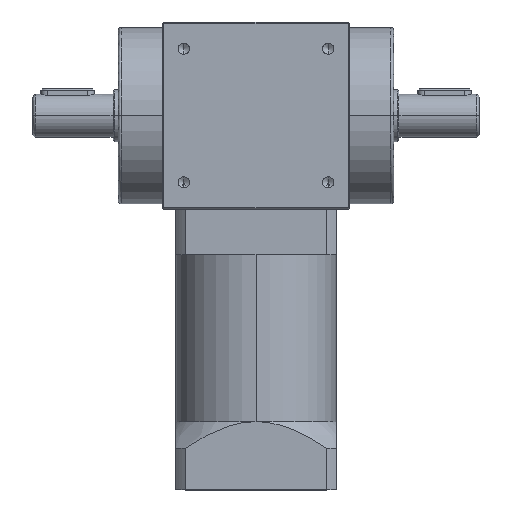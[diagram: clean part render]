
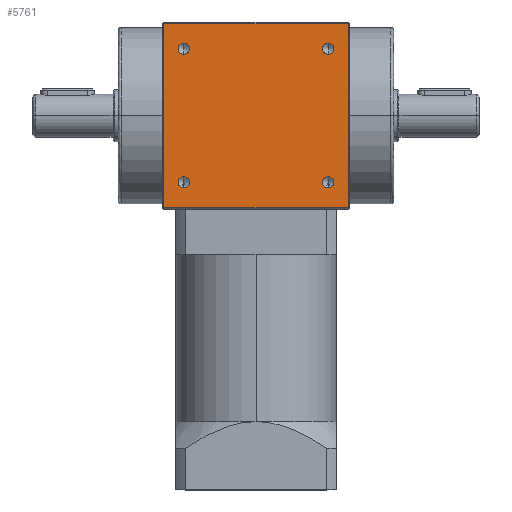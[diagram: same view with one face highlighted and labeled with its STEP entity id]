
A CAD part, top view. The second image highlights one B-rep face of the part: STEP entity #5761.
In plain terms, the highlighted planar face has unit normal (0, 0, 1).
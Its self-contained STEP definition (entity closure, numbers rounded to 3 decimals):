
#47 = CIRCLE ( 'NONE', #3463, 2.1 ) ;
#81 = VERTEX_POINT ( 'NONE', #1172 ) ;
#126 = AXIS2_PLACEMENT_3D ( 'NONE', #8744, #4515, #253 ) ;
#127 = DIRECTION ( 'NONE',  ( 0., 0., -1. ) ) ;
#184 = EDGE_LOOP ( 'NONE', ( #8799, #3134 ) ) ;
#205 = CARTESIAN_POINT ( 'NONE',  ( 27., 25., 35. ) ) ;
#253 = DIRECTION ( 'NONE',  ( 0., -1., 0. ) ) ;
#666 = LINE ( 'NONE', #1126, #6526 ) ;
#774 = FACE_BOUND ( 'NONE', #1692, .T. ) ;
#907 = AXIS2_PLACEMENT_3D ( 'NONE', #2643, #7632, #3363 ) ;
#913 = DIRECTION ( 'NONE',  ( 0., -1., 0. ) ) ;
#989 = FACE_BOUND ( 'NONE', #184, .T. ) ;
#1126 = CARTESIAN_POINT ( 'NONE',  ( 34.5, 0., 35. ) ) ;
#1172 = CARTESIAN_POINT ( 'NONE',  ( -27., 27.1, 35. ) ) ;
#1206 = VERTEX_POINT ( 'NONE', #3958 ) ;
#1383 = DIRECTION ( 'NONE',  ( 0., 0., 1. ) ) ;
#1465 = DIRECTION ( 'NONE',  ( 0., 0., -1. ) ) ;
#1482 = CIRCLE ( 'NONE', #3029, 2.1 ) ;
#1598 = EDGE_LOOP ( 'NONE', ( #9054, #6987 ) ) ;
#1692 = EDGE_LOOP ( 'NONE', ( #5704, #2667 ) ) ;
#1873 = AXIS2_PLACEMENT_3D ( 'NONE', #5637, #1383, #6344 ) ;
#1903 = DIRECTION ( 'NONE',  ( -1., 0., 0. ) ) ;
#1992 = CIRCLE ( 'NONE', #907, 2.1 ) ;
#2111 = VERTEX_POINT ( 'NONE', #3402 ) ;
#2163 = CARTESIAN_POINT ( 'NONE',  ( 27., 22.9, 35. ) ) ;
#2195 = LINE ( 'NONE', #3304, #7676 ) ;
#2230 = CARTESIAN_POINT ( 'NONE',  ( -34.5, -34.5, 35. ) ) ;
#2529 = DIRECTION ( 'NONE',  ( 0., 0., 1. ) ) ;
#2621 = FACE_BOUND ( 'NONE', #2932, .T. ) ;
#2622 = ORIENTED_EDGE ( 'NONE', *, *, #5671, .F. ) ;
#2643 = CARTESIAN_POINT ( 'NONE',  ( -27., 25., 35. ) ) ;
#2667 = ORIENTED_EDGE ( 'NONE', *, *, #7428, .T. ) ;
#2719 = ORIENTED_EDGE ( 'NONE', *, *, #2742, .F. ) ;
#2742 = EDGE_CURVE ( 'NONE', #4384, #4494, #3799, .T. ) ;
#2756 = ORIENTED_EDGE ( 'NONE', *, *, #6785, .T. ) ;
#2800 = ORIENTED_EDGE ( 'NONE', *, *, #7759, .F. ) ;
#2812 = EDGE_CURVE ( 'NONE', #8323, #81, #1992, .T. ) ;
#2894 = CARTESIAN_POINT ( 'NONE',  ( 27., -27.1, 35. ) ) ;
#2904 = CARTESIAN_POINT ( 'NONE',  ( 27., 27.1, 35. ) ) ;
#2932 = EDGE_LOOP ( 'NONE', ( #2719, #2800 ) ) ;
#2960 = AXIS2_PLACEMENT_3D ( 'NONE', #6784, #8197, #7615 ) ;
#3029 = AXIS2_PLACEMENT_3D ( 'NONE', #6814, #2529, #7516 ) ;
#3035 = EDGE_CURVE ( 'NONE', #5832, #4157, #6105, .T. ) ;
#3134 = ORIENTED_EDGE ( 'NONE', *, *, #7045, .T. ) ;
#3148 = LINE ( 'NONE', #8905, #5073 ) ;
#3304 = CARTESIAN_POINT ( 'NONE',  ( 0., -34.5, 35. ) ) ;
#3363 = DIRECTION ( 'NONE',  ( 0., -1., 0. ) ) ;
#3377 = DIRECTION ( 'NONE',  ( 0., 0., -1. ) ) ;
#3382 = AXIS2_PLACEMENT_3D ( 'NONE', #5728, #1465, #6438 ) ;
#3384 = CARTESIAN_POINT ( 'NONE',  ( 27., -22.9, 35. ) ) ;
#3402 = CARTESIAN_POINT ( 'NONE',  ( -34.5, 34.5, 35. ) ) ;
#3463 = AXIS2_PLACEMENT_3D ( 'NONE', #205, #5171, #913 ) ;
#3482 = EDGE_LOOP ( 'NONE', ( #8898, #2622, #2756, #5384 ) ) ;
#3799 = CIRCLE ( 'NONE', #2960, 2.1 ) ;
#3956 = DIRECTION ( 'NONE',  ( 0., 1., 0. ) ) ;
#3958 = CARTESIAN_POINT ( 'NONE',  ( 34.5, -34.5, 35. ) ) ;
#4053 = DIRECTION ( 'NONE',  ( -1., 0., 0. ) ) ;
#4114 = AXIS2_PLACEMENT_3D ( 'NONE', #7644, #3377, #8380 ) ;
#4157 = VERTEX_POINT ( 'NONE', #2904 ) ;
#4195 = EDGE_CURVE ( 'NONE', #6408, #8888, #8658, .T. ) ;
#4380 = EDGE_CURVE ( 'NONE', #8888, #6408, #6070, .T. ) ;
#4384 = VERTEX_POINT ( 'NONE', #5879 ) ;
#4385 = CARTESIAN_POINT ( 'NONE',  ( 27., 25., 35. ) ) ;
#4494 = VERTEX_POINT ( 'NONE', #5428 ) ;
#4515 = DIRECTION ( 'NONE',  ( 0., 0., 1. ) ) ;
#4564 = FACE_OUTER_BOUND ( 'NONE', #3482, .T. ) ;
#4774 = CARTESIAN_POINT ( 'NONE',  ( 0., 34.5, 35. ) ) ;
#5022 = AXIS2_PLACEMENT_3D ( 'NONE', #4385, #127, #5108 ) ;
#5073 = VECTOR ( 'NONE', #3956, 1000. ) ;
#5108 = DIRECTION ( 'NONE',  ( 0., -1., 0. ) ) ;
#5171 = DIRECTION ( 'NONE',  ( 0., 0., -1. ) ) ;
#5374 = VERTEX_POINT ( 'NONE', #2230 ) ;
#5384 = ORIENTED_EDGE ( 'NONE', *, *, #7741, .F. ) ;
#5428 = CARTESIAN_POINT ( 'NONE',  ( -27., -22.9, 35. ) ) ;
#5637 = CARTESIAN_POINT ( 'NONE',  ( 27., -25., 35. ) ) ;
#5671 = EDGE_CURVE ( 'NONE', #8212, #1206, #666, .T. ) ;
#5704 = ORIENTED_EDGE ( 'NONE', *, *, #2812, .T. ) ;
#5728 = CARTESIAN_POINT ( 'NONE',  ( -27., 25., 35. ) ) ;
#5761 = ADVANCED_FACE ( 'NONE', ( #6418, #2621, #989, #774, #4564 ), #9034, .F. ) ;
#5832 = VERTEX_POINT ( 'NONE', #2163 ) ;
#5879 = CARTESIAN_POINT ( 'NONE',  ( -27., -27.1, 35. ) ) ;
#5928 = VECTOR ( 'NONE', #1903, 1000. ) ;
#6070 = CIRCLE ( 'NONE', #126, 2.1 ) ;
#6082 = DIRECTION ( 'NONE',  ( 0., -1., 0. ) ) ;
#6105 = CIRCLE ( 'NONE', #5022, 2.1 ) ;
#6344 = DIRECTION ( 'NONE',  ( 0., -1., 0. ) ) ;
#6408 = VERTEX_POINT ( 'NONE', #2894 ) ;
#6418 = FACE_BOUND ( 'NONE', #1598, .T. ) ;
#6438 = DIRECTION ( 'NONE',  ( 0., -1., 0. ) ) ;
#6526 = VECTOR ( 'NONE', #6082, 1000. ) ;
#6784 = CARTESIAN_POINT ( 'NONE',  ( -27., -25., 35. ) ) ;
#6785 = EDGE_CURVE ( 'NONE', #8212, #2111, #7824, .T. ) ;
#6814 = CARTESIAN_POINT ( 'NONE',  ( -27., -25., 35. ) ) ;
#6987 = ORIENTED_EDGE ( 'NONE', *, *, #4380, .F. ) ;
#7045 = EDGE_CURVE ( 'NONE', #4157, #5832, #47, .T. ) ;
#7428 = EDGE_CURVE ( 'NONE', #81, #8323, #8524, .T. ) ;
#7516 = DIRECTION ( 'NONE',  ( 0., -1., 0. ) ) ;
#7615 = DIRECTION ( 'NONE',  ( 0., -1., 0. ) ) ;
#7632 = DIRECTION ( 'NONE',  ( 0., 0., -1. ) ) ;
#7644 = CARTESIAN_POINT ( 'NONE',  ( 0., 0., 35. ) ) ;
#7676 = VECTOR ( 'NONE', #4053, 1000. ) ;
#7741 = EDGE_CURVE ( 'NONE', #5374, #2111, #3148, .T. ) ;
#7759 = EDGE_CURVE ( 'NONE', #4494, #4384, #1482, .T. ) ;
#7824 = LINE ( 'NONE', #4774, #5928 ) ;
#8169 = CARTESIAN_POINT ( 'NONE',  ( 34.5, 34.5, 35. ) ) ;
#8197 = DIRECTION ( 'NONE',  ( 0., 0., 1. ) ) ;
#8212 = VERTEX_POINT ( 'NONE', #8169 ) ;
#8266 = CARTESIAN_POINT ( 'NONE',  ( -27., 22.9, 35. ) ) ;
#8323 = VERTEX_POINT ( 'NONE', #8266 ) ;
#8369 = EDGE_CURVE ( 'NONE', #1206, #5374, #2195, .T. ) ;
#8380 = DIRECTION ( 'NONE',  ( -1., 0., 0. ) ) ;
#8524 = CIRCLE ( 'NONE', #3382, 2.1 ) ;
#8658 = CIRCLE ( 'NONE', #1873, 2.1 ) ;
#8744 = CARTESIAN_POINT ( 'NONE',  ( 27., -25., 35. ) ) ;
#8799 = ORIENTED_EDGE ( 'NONE', *, *, #3035, .T. ) ;
#8888 = VERTEX_POINT ( 'NONE', #3384 ) ;
#8898 = ORIENTED_EDGE ( 'NONE', *, *, #8369, .F. ) ;
#8905 = CARTESIAN_POINT ( 'NONE',  ( -34.5, 0., 35. ) ) ;
#9034 = PLANE ( 'NONE',  #4114 ) ;
#9054 = ORIENTED_EDGE ( 'NONE', *, *, #4195, .F. ) ;
